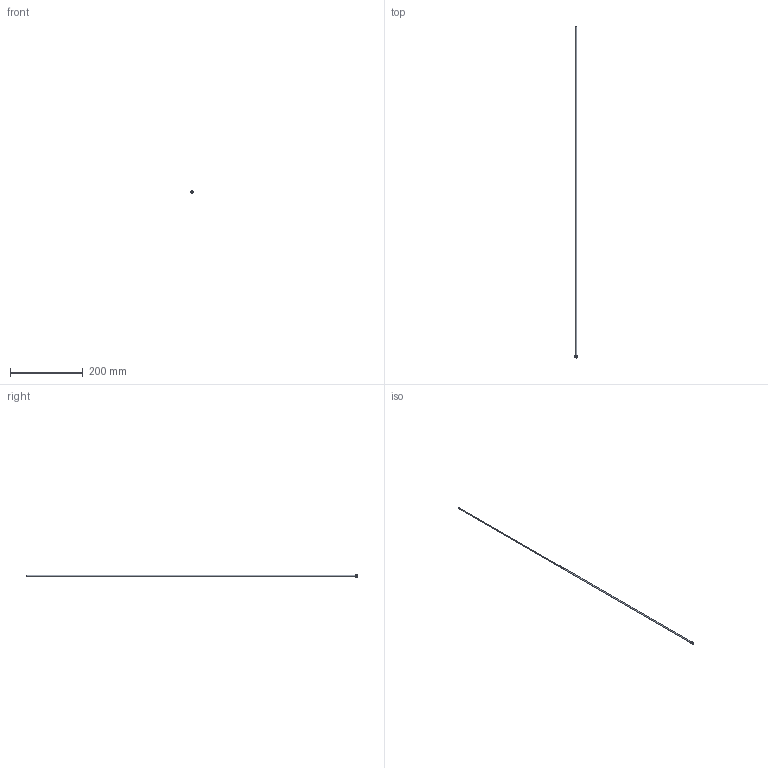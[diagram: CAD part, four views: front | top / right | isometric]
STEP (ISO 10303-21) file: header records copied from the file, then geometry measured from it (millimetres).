
FILE_DESCRIPTION(/* description */ (''),/* implementation_level */ '2;1');
FILE_NAME(/* name */ 'C:/Users/drich/Desktop/PT16-125-36 v2.step',/* time_stamp */ '2019-12-27T15:19:12-06:00',/* author */ (''),/* organization */ (''),/* preprocessor_version */ 'ST-DEVELOPER v18',/* originating_system */ 'Autodesk Translation Framework v8.12.0.6',/* authorisation */ '');
FILE_SCHEMA (('AUTOMOTIVE_DESIGN { 1 0 10303 214 3 1 1 }'));
Length unit declared in the file: inch
Products named in the file (1): PT16-125-36
Bounding box: 7.62 x 914.4 x 7.62 mm (x, y, z)
Volume: 1941 mm3; surface area: 17243.8 mm2
Topology: 1 solids, 1 shells, 19 faces, 48 edges, 34 vertices
Faces by surface type: plane 11, cylinder 4, torus 2, cone 2
Full cylindrical faces by diameter (mm): 2.769 x1, 3.175 x1, 4.724 x1, 7.616 x1
Entity records: 633 total; most frequent: DIRECTION 112, CARTESIAN_POINT 102, ORIENTED_EDGE 96, EDGE_CURVE 48, AXIS2_PLACEMENT_3D 44, VERTEX_POINT 34, CIRCLE 24, EDGE_LOOP 24
